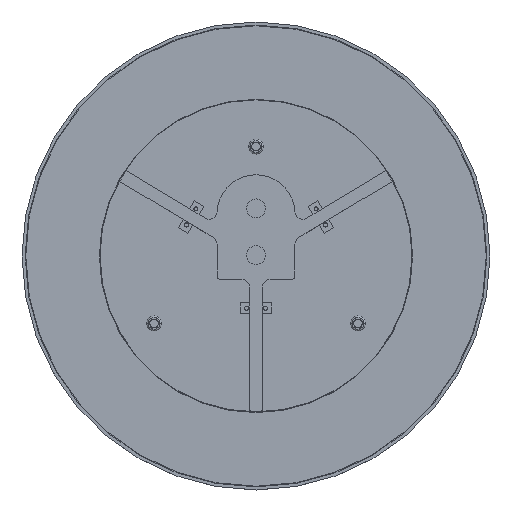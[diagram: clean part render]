
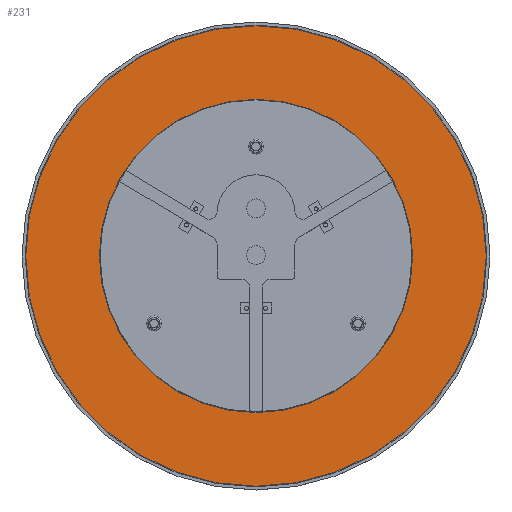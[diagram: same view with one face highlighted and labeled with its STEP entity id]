
A CAD part, top view. The second image highlights one B-rep face of the part: STEP entity #231.
In plain terms, the highlighted planar face has unit normal (0, 0, 1).
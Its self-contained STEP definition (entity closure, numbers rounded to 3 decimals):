
#231 = ADVANCED_FACE ( 'NONE', ( #1938, #13804 ), #16852, .T. ) ;
#293 = EDGE_LOOP ( 'NONE', ( #16448, #2858 ) ) ;
#372 = CARTESIAN_POINT ( 'NONE',  ( 0., 0., 10. ) ) ;
#709 = AXIS2_PLACEMENT_3D ( 'NONE', #13088, #1318, #5635 ) ;
#811 = CARTESIAN_POINT ( 'NONE',  ( 0., 0., 10. ) ) ;
#1318 = DIRECTION ( 'NONE',  ( 0., 0., 1. ) ) ;
#1515 = AXIS2_PLACEMENT_3D ( 'NONE', #15256, #12598, #6431 ) ;
#1623 = ORIENTED_EDGE ( 'NONE', *, *, #17005, .T. ) ;
#1938 = FACE_BOUND ( 'NONE', #14574, .T. ) ;
#2751 = VERTEX_POINT ( 'NONE', #6239 ) ;
#2812 = EDGE_CURVE ( 'NONE', #12392, #2751, #13411, .T. ) ;
#2858 = ORIENTED_EDGE ( 'NONE', *, *, #13022, .T. ) ;
#2898 = DIRECTION ( 'NONE',  ( 0., -1., 0. ) ) ;
#2987 = CARTESIAN_POINT ( 'NONE',  ( 0., 0., 10. ) ) ;
#3170 = CIRCLE ( 'NONE', #11321, 100.4 ) ;
#3968 = CARTESIAN_POINT ( 'NONE',  ( 0., 147.6, 10. ) ) ;
#4031 = DIRECTION ( 'NONE',  ( 0., 0., -1. ) ) ;
#4671 = DIRECTION ( 'NONE',  ( 1., 0., 0. ) ) ;
#5058 = CARTESIAN_POINT ( 'NONE',  ( 0., -147.6, 10. ) ) ;
#5107 = VERTEX_POINT ( 'NONE', #5058 ) ;
#5635 = DIRECTION ( 'NONE',  ( 0., 1., 0. ) ) ;
#6239 = CARTESIAN_POINT ( 'NONE',  ( 100.4, 0., 10. ) ) ;
#6431 = DIRECTION ( 'NONE',  ( -1., 0., 0. ) ) ;
#6452 = CARTESIAN_POINT ( 'NONE',  ( -100.4, 0., 10. ) ) ;
#6876 = DIRECTION ( 'NONE',  ( 1., 0., 0. ) ) ;
#9665 = ORIENTED_EDGE ( 'NONE', *, *, #2812, .T. ) ;
#10541 = DIRECTION ( 'NONE',  ( 0., 0., 1. ) ) ;
#11321 = AXIS2_PLACEMENT_3D ( 'NONE', #811, #4031, #6876 ) ;
#11822 = AXIS2_PLACEMENT_3D ( 'NONE', #372, #13616, #4671 ) ;
#12392 = VERTEX_POINT ( 'NONE', #6452 ) ;
#12598 = DIRECTION ( 'NONE',  ( 0., 0., -1. ) ) ;
#13022 = EDGE_CURVE ( 'NONE', #17697, #5107, #17622, .T. ) ;
#13088 = CARTESIAN_POINT ( 'NONE',  ( 0., 0., 10. ) ) ;
#13411 = CIRCLE ( 'NONE', #1515, 100.4 ) ;
#13616 = DIRECTION ( 'NONE',  ( 0., 0., 1. ) ) ;
#13804 = FACE_OUTER_BOUND ( 'NONE', #293, .T. ) ;
#14574 = EDGE_LOOP ( 'NONE', ( #9665, #1623 ) ) ;
#15256 = CARTESIAN_POINT ( 'NONE',  ( 0., 0., 10. ) ) ;
#15269 = EDGE_CURVE ( 'NONE', #5107, #17697, #16061, .T. ) ;
#16061 = CIRCLE ( 'NONE', #19201, 147.6 ) ;
#16448 = ORIENTED_EDGE ( 'NONE', *, *, #15269, .T. ) ;
#16852 = PLANE ( 'NONE',  #11822 ) ;
#17005 = EDGE_CURVE ( 'NONE', #2751, #12392, #3170, .T. ) ;
#17622 = CIRCLE ( 'NONE', #709, 147.6 ) ;
#17697 = VERTEX_POINT ( 'NONE', #3968 ) ;
#19201 = AXIS2_PLACEMENT_3D ( 'NONE', #2987, #10541, #2898 ) ;
